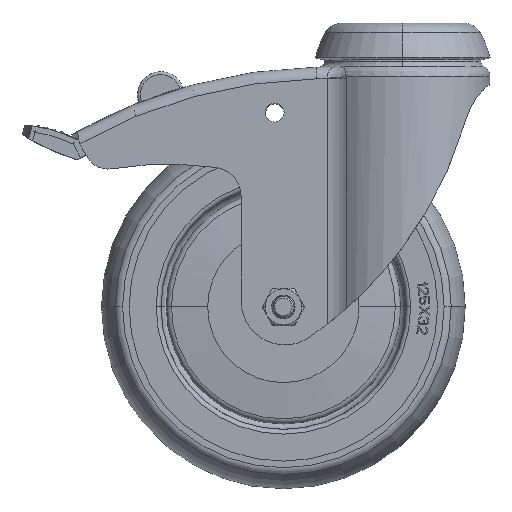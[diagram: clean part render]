
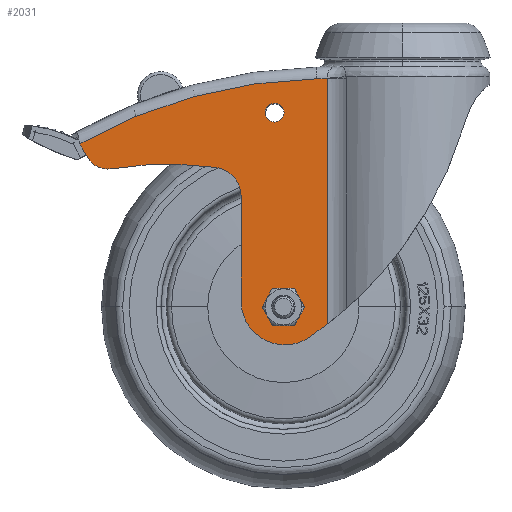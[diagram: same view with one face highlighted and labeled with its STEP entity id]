
A CAD part, left-side view. The second image highlights one B-rep face of the part: STEP entity #2031.
In plain terms, the highlighted planar face has unit normal (-1, 0, 0).
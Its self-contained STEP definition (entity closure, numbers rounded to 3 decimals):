
#2=CARTESIAN_POINT('',(-20.5,44.,-22.25));
#3=DIRECTION('',(1.,0.,0.));
#4=DIRECTION('',(0.,1.,0.));
#5=AXIS2_PLACEMENT_3D('',#2,#3,#4);
#7=CARTESIAN_POINT('',(-20.5,44.,-22.25));
#8=DIRECTION('',(1.,0.,0.));
#9=DIRECTION('',(0.,-1.,0.));
#10=AXIS2_PLACEMENT_3D('',#7,#8,#9);
#12=CARTESIAN_POINT('',(-20.5,41.,-89.));
#13=DIRECTION('',(1.,0.,0.));
#14=DIRECTION('',(0.,1.,0.));
#15=AXIS2_PLACEMENT_3D('',#12,#13,#14);
#17=CARTESIAN_POINT('',(-20.5,41.,-89.));
#18=DIRECTION('',(1.,0.,0.));
#19=DIRECTION('',(0.,-1.,0.));
#20=AXIS2_PLACEMENT_3D('',#17,#18,#19);
#22=CARTESIAN_POINT('',(-20.5,101.366,-33.633));
#23=DIRECTION('',(-1.,0.,0.));
#24=DIRECTION('',(0.,0.863,-0.506));
#25=AXIS2_PLACEMENT_3D('',#22,#23,#24);
#27=DIRECTION('',(0.,0.506,0.863));
#28=VECTOR('',#27,3.788);
#29=CARTESIAN_POINT('',(-20.5,108.266,-37.681));
#30=LINE('',#29,#28);
#31=CARTESIAN_POINT('',(-20.5,102.42,-29.86));
#32=DIRECTION('',(1.,0.,0.));
#33=DIRECTION('',(0.,0.863,-0.506));
#34=AXIS2_PLACEMENT_3D('',#31,#32,#33);
#36=CARTESIAN_POINT('',(-20.5,26.064,-183.261));
#37=DIRECTION('',(-1.,0.,0.));
#38=DIRECTION('',(0.,0.02,1.));
#39=AXIS2_PLACEMENT_3D('',#36,#37,#38);
#41=DIRECTION('',(0.,1.,0.));
#42=VECTOR('',#41,3.699);
#43=CARTESIAN_POINT('',(-20.5,25.88,-10.6));
#44=LINE('',#43,#42);
#45=DIRECTION('',(0.,0.,-1.));
#46=VECTOR('',#45,84.203);
#47=CARTESIAN_POINT('',(-20.5,25.88,-10.6));
#48=LINE('',#47,#46);
#49=CARTESIAN_POINT('',(-20.5,110.615,14.088));
#50=DIRECTION('',(1.,0.,0.));
#51=DIRECTION('',(0.,-0.614,-0.789));
#52=AXIS2_PLACEMENT_3D('',#49,#50,#51);
#54=CARTESIAN_POINT('',(-20.5,40.117,-88.5));
#55=DIRECTION('',(1.,0.,0.));
#56=DIRECTION('',(0.,-0.566,-0.824));
#57=AXIS2_PLACEMENT_3D('',#54,#55,#56);
#59=CARTESIAN_POINT('',(-20.5,40.571,-87.04));
#60=DIRECTION('',(1.,0.,0.));
#61=DIRECTION('',(0.,-0.016,-1.));
#62=AXIS2_PLACEMENT_3D('',#59,#60,#61);
#64=CARTESIAN_POINT('',(-20.5,80.485,-164.984));
#65=DIRECTION('',(1.,0.,0.));
#66=DIRECTION('',(0.,0.157,0.988));
#67=AXIS2_PLACEMENT_3D('',#64,#65,#66);
#365=CARTESIAN_POINT('',(-20.5,65.531,-50.96));
#366=DIRECTION('',(1.,0.,0.));
#367=DIRECTION('',(0.,-0.13,0.992));
#368=AXIS2_PLACEMENT_3D('',#365,#366,#367);
#390=DIRECTION('',(0.,0.,-1.));
#391=VECTOR('',#390,36.08);
#392=CARTESIAN_POINT('',(-20.5,55.531,-50.96));
#393=LINE('',#392,#391);
#658=CARTESIAN_POINT('',(-20.5,25.88,-10.6));
#668=CARTESIAN_POINT('',(-20.5,29.578,-10.6));
#1721=VERTEX_POINT('',#668);
#1729=VERTEX_POINT('',#658);
#1760=CARTESIAN_POINT('',(-20.5,110.911,-32.844));
#1761=VERTEX_POINT('',#1760);
#1776=CARTESIAN_POINT('',(-20.5,47.25,-22.25));
#1777=CARTESIAN_POINT('',(-20.5,40.75,-22.25));
#1778=VERTEX_POINT('',#1776);
#1779=VERTEX_POINT('',#1777);
#1826=CARTESIAN_POINT('',(-20.5,45.1,-89.));
#1827=CARTESIAN_POINT('',(-20.5,36.9,-89.));
#1828=VERTEX_POINT('',#1826);
#1829=VERTEX_POINT('',#1827);
#1842=CARTESIAN_POINT('',(-20.5,25.88,-94.803));
#1843=CARTESIAN_POINT('',(-20.5,32.471,-99.626));
#1844=VERTEX_POINT('',#1842);
#1845=VERTEX_POINT('',#1843);
#1933=CARTESIAN_POINT('',(-20.5,55.531,-87.04));
#1935=VERTEX_POINT('',#1933);
#1936=CARTESIAN_POINT('',(-20.5,40.338,-101.998));
#1938=VERTEX_POINT('',#1936);
#1944=CARTESIAN_POINT('',(-20.5,110.183,-34.414));
#1946=VERTEX_POINT('',#1944);
#1965=CARTESIAN_POINT('',(-20.5,55.531,-50.96));
#1967=VERTEX_POINT('',#1965);
#1969=CARTESIAN_POINT('',(-20.5,64.231,-41.045));
#1971=VERTEX_POINT('',#1969);
#1972=CARTESIAN_POINT('',(-20.5,108.266,-37.681));
#1973=CARTESIAN_POINT('',(-20.5,100.11,-41.534));
#1974=VERTEX_POINT('',#1972);
#1975=VERTEX_POINT('',#1973);
#1988=CARTESIAN_POINT('',(-20.5,176.,-6.6));
#1989=DIRECTION('',(-1.,0.,0.));
#1990=DIRECTION('',(0.,-1.,0.));
#1991=AXIS2_PLACEMENT_3D('',#1988,#1989,#1990);
#1992=PLANE('',#1991);
#1994=ORIENTED_EDGE('',*,*,#1993,.F.);
#1996=ORIENTED_EDGE('',*,*,#1995,.T.);
#1998=ORIENTED_EDGE('',*,*,#1997,.T.);
#2000=ORIENTED_EDGE('',*,*,#1999,.F.);
#2002=ORIENTED_EDGE('',*,*,#2001,.F.);
#2004=ORIENTED_EDGE('',*,*,#2003,.T.);
#2006=ORIENTED_EDGE('',*,*,#2005,.T.);
#2008=ORIENTED_EDGE('',*,*,#2007,.T.);
#2010=ORIENTED_EDGE('',*,*,#2009,.T.);
#2012=ORIENTED_EDGE('',*,*,#2011,.F.);
#2014=ORIENTED_EDGE('',*,*,#2013,.F.);
#2016=ORIENTED_EDGE('',*,*,#2015,.F.);
#2017=EDGE_LOOP('',(#1994,#1996,#1998,#2000,#2002,#2004,#2006,#2008,#2010,#2012,
#2014,#2016));
#2018=FACE_OUTER_BOUND('',#2017,.F.);
#2020=ORIENTED_EDGE('',*,*,#2019,.F.);
#2022=ORIENTED_EDGE('',*,*,#2021,.F.);
#2023=EDGE_LOOP('',(#2020,#2022));
#2024=FACE_BOUND('',#2023,.F.);
#2026=ORIENTED_EDGE('',*,*,#2025,.F.);
#2028=ORIENTED_EDGE('',*,*,#2027,.F.);
#2029=EDGE_LOOP('',(#2026,#2028));
#2030=FACE_BOUND('',#2029,.F.);
#2031=ADVANCED_FACE('',(#2018,#2024,#2030),#1992,.T.);
#6=CIRCLE('',#5,3.25);
#11=CIRCLE('',#10,3.25);
#16=CIRCLE('',#15,4.1);
#21=CIRCLE('',#20,4.1);
#26=CIRCLE('',#25,8.);
#35=CIRCLE('',#34,9.);
#40=CIRCLE('',#39,172.697);
#53=CIRCLE('',#52,137.976);
#58=CIRCLE('',#57,13.5);
#63=CIRCLE('',#62,14.96);
#68=CIRCLE('',#67,125.);
#369=CIRCLE('',#368,10.);
#1993=EDGE_CURVE('',#1974,#1975,#26,.T.);
#1995=EDGE_CURVE('',#1974,#1946,#30,.T.);
#1997=EDGE_CURVE('',#1946,#1761,#35,.T.);
#1999=EDGE_CURVE('',#1721,#1761,#40,.T.);
#2001=EDGE_CURVE('',#1729,#1721,#44,.T.);
#2003=EDGE_CURVE('',#1729,#1844,#48,.T.);
#2005=EDGE_CURVE('',#1844,#1845,#53,.T.);
#2007=EDGE_CURVE('',#1845,#1938,#58,.T.);
#2009=EDGE_CURVE('',#1938,#1935,#63,.T.);
#2011=EDGE_CURVE('',#1967,#1935,#393,.T.);
#2013=EDGE_CURVE('',#1971,#1967,#369,.T.);
#2015=EDGE_CURVE('',#1975,#1971,#68,.T.);
#2019=EDGE_CURVE('',#1778,#1779,#6,.T.);
#2021=EDGE_CURVE('',#1779,#1778,#11,.T.);
#2025=EDGE_CURVE('',#1828,#1829,#16,.T.);
#2027=EDGE_CURVE('',#1829,#1828,#21,.T.);
